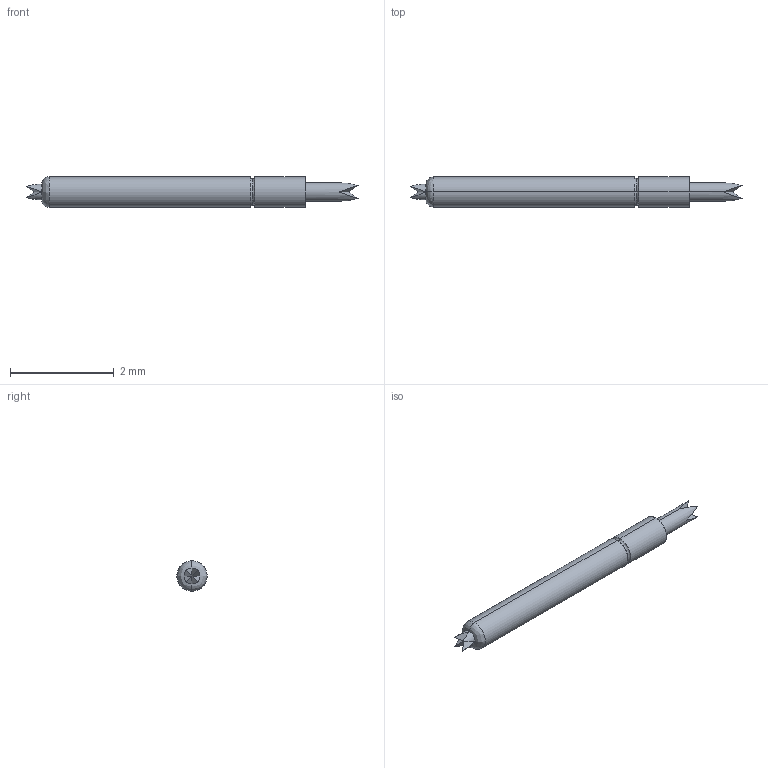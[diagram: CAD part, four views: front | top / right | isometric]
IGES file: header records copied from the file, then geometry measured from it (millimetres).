
Start section: SolidWorks IGES file using analytic representation for surfaces
Global section: file name: Z:\probe solid model mockups\Solidworks models\IGES Files\CSP8-20 IGES files\CSP8-20LL Full.IGS; native system: SolidWorks 2006 by SolidWorks Corporation; preprocessor: SolidWorks 2006 by SolidWorks Corporation; author: tsakatani; date: 080108.153039; units: inch
Bounding box: 6.4 x 0.58 x 0.58 mm (x, y, z)
Surface area: 11.2 mm2 (no closed solid volume)
Topology: 0 solids, 0 shells, 38 faces, 210 edges, 210 vertices
Faces by surface type: bspline 23, revolution 15
